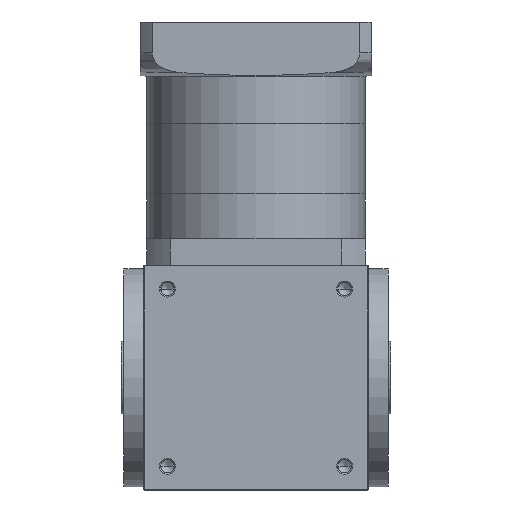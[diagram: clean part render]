
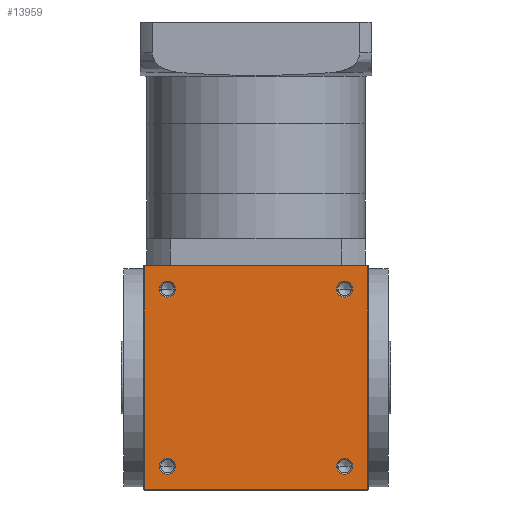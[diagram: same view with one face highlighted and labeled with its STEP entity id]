
A CAD part, front view. The second image highlights one B-rep face of the part: STEP entity #13959.
In plain terms, the highlighted planar face has unit normal (0, -1, 0).
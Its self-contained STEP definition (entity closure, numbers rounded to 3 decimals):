
#257 = ORIENTED_EDGE ( 'NONE', *, *, #19494, .F. ) ;
#674 = AXIS2_PLACEMENT_3D ( 'NONE', #16164, #45776, #20486 ) ;
#1485 = ORIENTED_EDGE ( 'NONE', *, *, #40280, .F. ) ;
#1521 = EDGE_CURVE ( 'NONE', #52495, #29758, #9301, .T. ) ;
#2179 = EDGE_CURVE ( 'NONE', #5648, #13175, #18526, .T. ) ;
#4046 = DIRECTION ( 'NONE',  ( 0., 0., 1. ) ) ;
#4936 = VERTEX_POINT ( 'NONE', #41461 ) ;
#5060 = DIRECTION ( 'NONE',  ( 0., 0., -1. ) ) ;
#5067 = DIRECTION ( 'NONE',  ( 0., -1., 0. ) ) ;
#5109 = CARTESIAN_POINT ( 'NONE',  ( -67., -85., 18. ) ) ;
#5277 = CIRCLE ( 'NONE', #35463, 6.025 ) ;
#5648 = VERTEX_POINT ( 'NONE', #53150 ) ;
#5670 = LINE ( 'NONE', #15786, #11829 ) ;
#5804 = ORIENTED_EDGE ( 'NONE', *, *, #19008, .F. ) ;
#5985 = CARTESIAN_POINT ( 'NONE',  ( -67., -85., 158.025 ) ) ;
#7026 = VERTEX_POINT ( 'NONE', #36838 ) ;
#7163 = DIRECTION ( 'NONE',  ( 0., -1., 0. ) ) ;
#8383 = DIRECTION ( 'NONE',  ( 0., -1., 0. ) ) ;
#8823 = CARTESIAN_POINT ( 'NONE',  ( 67., -85., 152. ) ) ;
#9301 = LINE ( 'NONE', #33476, #9569 ) ;
#9569 = VECTOR ( 'NONE', #15068, 1000. ) ;
#10005 = VERTEX_POINT ( 'NONE', #41162 ) ;
#10328 = FACE_BOUND ( 'NONE', #15948, .T. ) ;
#10807 = FACE_BOUND ( 'NONE', #49755, .T. ) ;
#11341 = AXIS2_PLACEMENT_3D ( 'NONE', #34785, #34720, #34615 ) ;
#11622 = FACE_BOUND ( 'NONE', #39137, .T. ) ;
#11829 = VECTOR ( 'NONE', #49415, 1000. ) ;
#12794 = DIRECTION ( 'NONE',  ( 0., -1., 0. ) ) ;
#12945 = ORIENTED_EDGE ( 'NONE', *, *, #2179, .F. ) ;
#13082 = DIRECTION ( 'NONE',  ( 0., 0., -1. ) ) ;
#13175 = VERTEX_POINT ( 'NONE', #34328 ) ;
#13936 = LINE ( 'NONE', #21081, #14341 ) ;
#13959 = ADVANCED_FACE ( 'NONE', ( #10328, #11622, #14715, #10807, #15539 ), #31746, .F. ) ;
#14089 = EDGE_LOOP ( 'NONE', ( #12945, #42822 ) ) ;
#14341 = VECTOR ( 'NONE', #4046, 1000. ) ;
#14555 = AXIS2_PLACEMENT_3D ( 'NONE', #19238, #19175, #19116 ) ;
#14715 = FACE_BOUND ( 'NONE', #14089, .T. ) ;
#15068 = DIRECTION ( 'NONE',  ( -1., 0., 0. ) ) ;
#15539 = FACE_OUTER_BOUND ( 'NONE', #17827, .T. ) ;
#15786 = CARTESIAN_POINT ( 'NONE',  ( 84.5, -85., 170. ) ) ;
#15948 = EDGE_LOOP ( 'NONE', ( #1485, #5804 ) ) ;
#16164 = CARTESIAN_POINT ( 'NONE',  ( -67., -85., 18. ) ) ;
#17827 = EDGE_LOOP ( 'NONE', ( #47139, #43644, #43034, #29963 ) ) ;
#18526 = CIRCLE ( 'NONE', #11341, 6.025 ) ;
#19008 = EDGE_CURVE ( 'NONE', #29063, #10005, #49967, .T. ) ;
#19116 = DIRECTION ( 'NONE',  ( 0., 0., -1. ) ) ;
#19175 = DIRECTION ( 'NONE',  ( 0., -1., 0. ) ) ;
#19238 = CARTESIAN_POINT ( 'NONE',  ( -67., -85., 152. ) ) ;
#19346 = DIRECTION ( 'NONE',  ( 1., 0., 0. ) ) ;
#19494 = EDGE_CURVE ( 'NONE', #49054, #7026, #36263, .T. ) ;
#20486 = DIRECTION ( 'NONE',  ( 0., 0., -1. ) ) ;
#21081 = CARTESIAN_POINT ( 'NONE',  ( -84.5, -85., 170. ) ) ;
#21621 = ORIENTED_EDGE ( 'NONE', *, *, #25941, .F. ) ;
#22147 = CARTESIAN_POINT ( 'NONE',  ( -67., -85., 24.025 ) ) ;
#23331 = AXIS2_PLACEMENT_3D ( 'NONE', #31159, #31084, #31021 ) ;
#23499 = VERTEX_POINT ( 'NONE', #45611 ) ;
#24455 = EDGE_CURVE ( 'NONE', #30643, #4936, #44803, .T. ) ;
#24664 = ORIENTED_EDGE ( 'NONE', *, *, #50178, .F. ) ;
#25941 = EDGE_CURVE ( 'NONE', #36075, #23499, #5277, .T. ) ;
#27290 = CARTESIAN_POINT ( 'NONE',  ( 67., -85., 145.975 ) ) ;
#27871 = CARTESIAN_POINT ( 'NONE',  ( -85., -85., 169.5 ) ) ;
#28976 = CIRCLE ( 'NONE', #49389, 6.025 ) ;
#29063 = VERTEX_POINT ( 'NONE', #5985 ) ;
#29758 = VERTEX_POINT ( 'NONE', #46119 ) ;
#29963 = ORIENTED_EDGE ( 'NONE', *, *, #53589, .F. ) ;
#30643 = VERTEX_POINT ( 'NONE', #38344 ) ;
#31021 = DIRECTION ( 'NONE',  ( 0., 0., 1. ) ) ;
#31084 = DIRECTION ( 'NONE',  ( 0., 1., 0. ) ) ;
#31159 = CARTESIAN_POINT ( 'NONE',  ( -85., -85., 170. ) ) ;
#31746 = PLANE ( 'NONE',  #23331 ) ;
#32437 = EDGE_CURVE ( 'NONE', #7026, #49054, #52931, .T. ) ;
#32689 = CARTESIAN_POINT ( 'NONE',  ( 67., -85., 18. ) ) ;
#33476 = CARTESIAN_POINT ( 'NONE',  ( -85., -85., 0.5 ) ) ;
#33546 = AXIS2_PLACEMENT_3D ( 'NONE', #5109, #5067, #5060 ) ;
#33933 = CARTESIAN_POINT ( 'NONE',  ( 67., -85., 152. ) ) ;
#34328 = CARTESIAN_POINT ( 'NONE',  ( 67., -85., 24.025 ) ) ;
#34615 = DIRECTION ( 'NONE',  ( 0., 0., -1. ) ) ;
#34720 = DIRECTION ( 'NONE',  ( 0., -1., 0. ) ) ;
#34785 = CARTESIAN_POINT ( 'NONE',  ( 67., -85., 18. ) ) ;
#35422 = AXIS2_PLACEMENT_3D ( 'NONE', #38351, #12794, #42561 ) ;
#35463 = AXIS2_PLACEMENT_3D ( 'NONE', #8823, #38626, #13082 ) ;
#36075 = VERTEX_POINT ( 'NONE', #27290 ) ;
#36263 = CIRCLE ( 'NONE', #33546, 6.025 ) ;
#36838 = CARTESIAN_POINT ( 'NONE',  ( -67., -85., 11.975 ) ) ;
#36923 = DIRECTION ( 'NONE',  ( 0., 0., -1. ) ) ;
#38194 = DIRECTION ( 'NONE',  ( 0., 0., -1. ) ) ;
#38344 = CARTESIAN_POINT ( 'NONE',  ( -84.5, -85., 169.5 ) ) ;
#38351 = CARTESIAN_POINT ( 'NONE',  ( -67., -85., 152. ) ) ;
#38463 = CIRCLE ( 'NONE', #43467, 6.025 ) ;
#38626 = DIRECTION ( 'NONE',  ( 0., -1., 0. ) ) ;
#39137 = EDGE_LOOP ( 'NONE', ( #21621, #24664 ) ) ;
#40280 = EDGE_CURVE ( 'NONE', #10005, #29063, #45484, .T. ) ;
#40808 = EDGE_CURVE ( 'NONE', #4936, #52495, #5670, .T. ) ;
#41162 = CARTESIAN_POINT ( 'NONE',  ( -67., -85., 145.975 ) ) ;
#41461 = CARTESIAN_POINT ( 'NONE',  ( 84.5, -85., 169.5 ) ) ;
#42561 = DIRECTION ( 'NONE',  ( 0., 0., -1. ) ) ;
#42822 = ORIENTED_EDGE ( 'NONE', *, *, #45720, .F. ) ;
#43034 = ORIENTED_EDGE ( 'NONE', *, *, #24455, .F. ) ;
#43467 = AXIS2_PLACEMENT_3D ( 'NONE', #33933, #8383, #38194 ) ;
#43644 = ORIENTED_EDGE ( 'NONE', *, *, #40808, .F. ) ;
#44803 = LINE ( 'NONE', #27871, #45124 ) ;
#45124 = VECTOR ( 'NONE', #19346, 1000. ) ;
#45484 = CIRCLE ( 'NONE', #35422, 6.025 ) ;
#45611 = CARTESIAN_POINT ( 'NONE',  ( 67., -85., 158.025 ) ) ;
#45720 = EDGE_CURVE ( 'NONE', #13175, #5648, #28976, .T. ) ;
#45776 = DIRECTION ( 'NONE',  ( 0., -1., 0. ) ) ;
#46119 = CARTESIAN_POINT ( 'NONE',  ( -84.5, -85., 0.5 ) ) ;
#47139 = ORIENTED_EDGE ( 'NONE', *, *, #1521, .F. ) ;
#48836 = CARTESIAN_POINT ( 'NONE',  ( 84.5, -85., 0.5 ) ) ;
#49054 = VERTEX_POINT ( 'NONE', #22147 ) ;
#49389 = AXIS2_PLACEMENT_3D ( 'NONE', #32689, #7163, #36923 ) ;
#49415 = DIRECTION ( 'NONE',  ( 0., 0., -1. ) ) ;
#49755 = EDGE_LOOP ( 'NONE', ( #52408, #257 ) ) ;
#49967 = CIRCLE ( 'NONE', #14555, 6.025 ) ;
#50178 = EDGE_CURVE ( 'NONE', #23499, #36075, #38463, .T. ) ;
#52408 = ORIENTED_EDGE ( 'NONE', *, *, #32437, .F. ) ;
#52495 = VERTEX_POINT ( 'NONE', #48836 ) ;
#52931 = CIRCLE ( 'NONE', #674, 6.025 ) ;
#53150 = CARTESIAN_POINT ( 'NONE',  ( 67., -85., 11.975 ) ) ;
#53589 = EDGE_CURVE ( 'NONE', #29758, #30643, #13936, .T. ) ;
